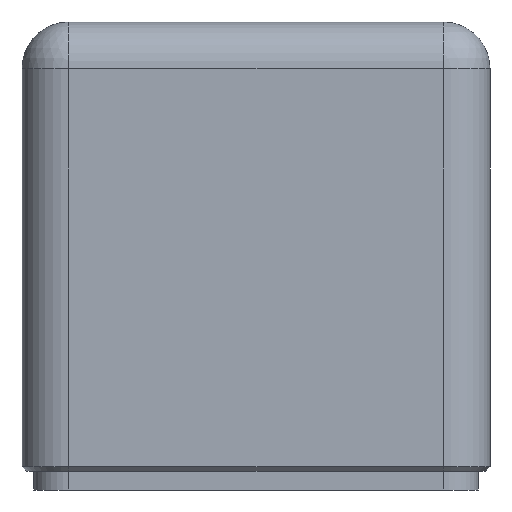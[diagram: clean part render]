
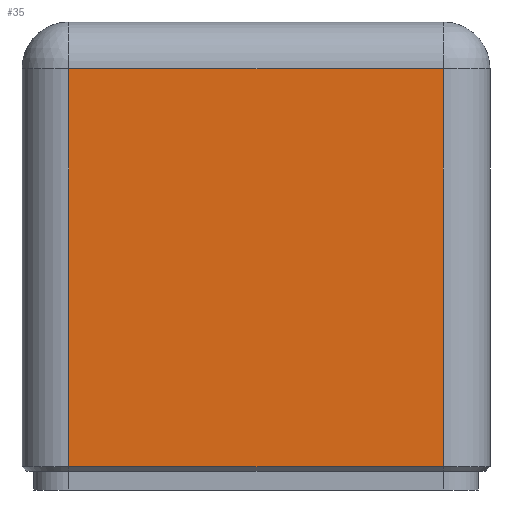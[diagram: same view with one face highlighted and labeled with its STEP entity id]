
A CAD part, left-side view. The second image highlights one B-rep face of the part: STEP entity #35.
In plain terms, the highlighted planar face has unit normal (-1, 0, 0).
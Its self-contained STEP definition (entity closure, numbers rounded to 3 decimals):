
#35 = ADVANCED_FACE('',(#36),#50,.F.);
#36 = FACE_BOUND('',#37,.F.);
#37 = EDGE_LOOP('',(#38,#73,#101,#129));
#38 = ORIENTED_EDGE('',*,*,#39,.F.);
#39 = EDGE_CURVE('',#40,#42,#44,.T.);
#40 = VERTEX_POINT('',#41);
#41 = CARTESIAN_POINT('',(-10.,-8.,1.));
#42 = VERTEX_POINT('',#43);
#43 = CARTESIAN_POINT('',(-10.,-8.,18.));
#44 = SURFACE_CURVE('',#45,(#49,#61),.PCURVE_S1.);
#45 = LINE('',#46,#47);
#46 = CARTESIAN_POINT('',(-10.,-8.,0.8));
#47 = VECTOR('',#48,1.);
#48 = DIRECTION('',(0.,0.,1.));
#49 = PCURVE('',#50,#55);
#50 = PLANE('',#51);
#51 = AXIS2_PLACEMENT_3D('',#52,#53,#54);
#52 = CARTESIAN_POINT('',(-10.,-10.,0.8));
#53 = DIRECTION('',(1.,0.,-0.));
#54 = DIRECTION('',(0.,0.,1.));
#55 = DEFINITIONAL_REPRESENTATION('',(#56),#60);
#56 = LINE('',#57,#58);
#57 = CARTESIAN_POINT('',(0.,-2.));
#58 = VECTOR('',#59,1.);
#59 = DIRECTION('',(1.,0.));
#60 = ( GEOMETRIC_REPRESENTATION_CONTEXT(2) 
PARAMETRIC_REPRESENTATION_CONTEXT() REPRESENTATION_CONTEXT('2D SPACE',''
  ) );
#61 = PCURVE('',#62,#67);
#62 = CYLINDRICAL_SURFACE('',#63,2.);
#63 = AXIS2_PLACEMENT_3D('',#64,#65,#66);
#64 = CARTESIAN_POINT('',(-8.,-8.,0.8));
#65 = DIRECTION('',(0.,0.,1.));
#66 = DIRECTION('',(-1.,-0.,0.));
#67 = DEFINITIONAL_REPRESENTATION('',(#68),#72);
#68 = LINE('',#69,#70);
#69 = CARTESIAN_POINT('',(0.,0.));
#70 = VECTOR('',#71,1.);
#71 = DIRECTION('',(0.,1.));
#72 = ( GEOMETRIC_REPRESENTATION_CONTEXT(2) 
PARAMETRIC_REPRESENTATION_CONTEXT() REPRESENTATION_CONTEXT('2D SPACE',''
  ) );
#73 = ORIENTED_EDGE('',*,*,#74,.T.);
#74 = EDGE_CURVE('',#40,#75,#77,.T.);
#75 = VERTEX_POINT('',#76);
#76 = CARTESIAN_POINT('',(-10.,8.,1.));
#77 = SURFACE_CURVE('',#78,(#82,#89),.PCURVE_S1.);
#78 = LINE('',#79,#80);
#79 = CARTESIAN_POINT('',(-10.,-8.,1.));
#80 = VECTOR('',#81,1.);
#81 = DIRECTION('',(-0.,1.,0.));
#82 = PCURVE('',#50,#83);
#83 = DEFINITIONAL_REPRESENTATION('',(#84),#88);
#84 = LINE('',#85,#86);
#85 = CARTESIAN_POINT('',(0.2,-2.));
#86 = VECTOR('',#87,1.);
#87 = DIRECTION('',(0.,-1.));
#88 = ( GEOMETRIC_REPRESENTATION_CONTEXT(2) 
PARAMETRIC_REPRESENTATION_CONTEXT() REPRESENTATION_CONTEXT('2D SPACE',''
  ) );
#89 = PCURVE('',#90,#95);
#90 = PLANE('',#91);
#91 = AXIS2_PLACEMENT_3D('',#92,#93,#94);
#92 = CARTESIAN_POINT('',(-9.9,-8.,0.9));
#93 = DIRECTION('',(-0.707,0.,-0.707));
#94 = DIRECTION('',(0.,1.,0.));
#95 = DEFINITIONAL_REPRESENTATION('',(#96),#100);
#96 = LINE('',#97,#98);
#97 = CARTESIAN_POINT('',(0.,-0.141));
#98 = VECTOR('',#99,1.);
#99 = DIRECTION('',(1.,0.));
#100 = ( GEOMETRIC_REPRESENTATION_CONTEXT(2) 
PARAMETRIC_REPRESENTATION_CONTEXT() REPRESENTATION_CONTEXT('2D SPACE',''
  ) );
#101 = ORIENTED_EDGE('',*,*,#102,.T.);
#102 = EDGE_CURVE('',#75,#103,#105,.T.);
#103 = VERTEX_POINT('',#104);
#104 = CARTESIAN_POINT('',(-10.,8.,18.));
#105 = SURFACE_CURVE('',#106,(#110,#117),.PCURVE_S1.);
#106 = LINE('',#107,#108);
#107 = CARTESIAN_POINT('',(-10.,8.,0.8));
#108 = VECTOR('',#109,1.);
#109 = DIRECTION('',(0.,0.,1.));
#110 = PCURVE('',#50,#111);
#111 = DEFINITIONAL_REPRESENTATION('',(#112),#116);
#112 = LINE('',#113,#114);
#113 = CARTESIAN_POINT('',(0.,-18.));
#114 = VECTOR('',#115,1.);
#115 = DIRECTION('',(1.,0.));
#116 = ( GEOMETRIC_REPRESENTATION_CONTEXT(2) 
PARAMETRIC_REPRESENTATION_CONTEXT() REPRESENTATION_CONTEXT('2D SPACE',''
  ) );
#117 = PCURVE('',#118,#123);
#118 = CYLINDRICAL_SURFACE('',#119,2.);
#119 = AXIS2_PLACEMENT_3D('',#120,#121,#122);
#120 = CARTESIAN_POINT('',(-8.,8.,0.8));
#121 = DIRECTION('',(0.,0.,1.));
#122 = DIRECTION('',(-1.,-0.,0.));
#123 = DEFINITIONAL_REPRESENTATION('',(#124),#128);
#124 = LINE('',#125,#126);
#125 = CARTESIAN_POINT('',(-0.,0.));
#126 = VECTOR('',#127,1.);
#127 = DIRECTION('',(-0.,1.));
#128 = ( GEOMETRIC_REPRESENTATION_CONTEXT(2) 
PARAMETRIC_REPRESENTATION_CONTEXT() REPRESENTATION_CONTEXT('2D SPACE',''
  ) );
#129 = ORIENTED_EDGE('',*,*,#130,.F.);
#130 = EDGE_CURVE('',#42,#103,#131,.T.);
#131 = SURFACE_CURVE('',#132,(#136,#143),.PCURVE_S1.);
#132 = LINE('',#133,#134);
#133 = CARTESIAN_POINT('',(-10.,-8.,18.));
#134 = VECTOR('',#135,1.);
#135 = DIRECTION('',(-0.,1.,0.));
#136 = PCURVE('',#50,#137);
#137 = DEFINITIONAL_REPRESENTATION('',(#138),#142);
#138 = LINE('',#139,#140);
#139 = CARTESIAN_POINT('',(17.2,-2.));
#140 = VECTOR('',#141,1.);
#141 = DIRECTION('',(0.,-1.));
#142 = ( GEOMETRIC_REPRESENTATION_CONTEXT(2) 
PARAMETRIC_REPRESENTATION_CONTEXT() REPRESENTATION_CONTEXT('2D SPACE',''
  ) );
#143 = PCURVE('',#144,#149);
#144 = CYLINDRICAL_SURFACE('',#145,2.);
#145 = AXIS2_PLACEMENT_3D('',#146,#147,#148);
#146 = CARTESIAN_POINT('',(-8.,-8.,18.));
#147 = DIRECTION('',(-0.,1.,0.));
#148 = DIRECTION('',(-1.,-0.,0.));
#149 = DEFINITIONAL_REPRESENTATION('',(#150),#154);
#150 = LINE('',#151,#152);
#151 = CARTESIAN_POINT('',(0.,0.));
#152 = VECTOR('',#153,1.);
#153 = DIRECTION('',(0.,1.));
#154 = ( GEOMETRIC_REPRESENTATION_CONTEXT(2) 
PARAMETRIC_REPRESENTATION_CONTEXT() REPRESENTATION_CONTEXT('2D SPACE',''
  ) );
